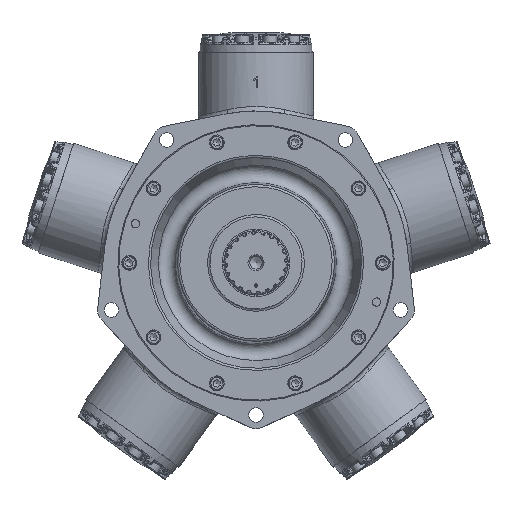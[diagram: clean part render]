
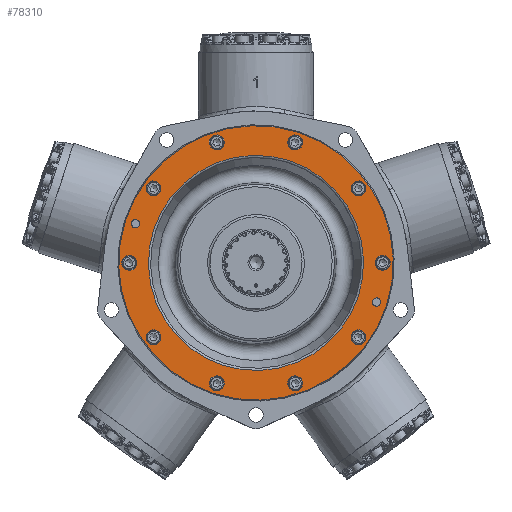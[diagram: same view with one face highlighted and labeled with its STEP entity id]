
A CAD part, top view. The second image highlights one B-rep face of the part: STEP entity #78310.
In plain terms, the highlighted planar face has unit normal (0, 0, 1).
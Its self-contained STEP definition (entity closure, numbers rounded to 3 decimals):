
#1900=FACE_BOUND('',#17883,.T.);
#1901=FACE_BOUND('',#17884,.T.);
#1902=FACE_BOUND('',#17885,.T.);
#1903=FACE_BOUND('',#17886,.T.);
#1904=FACE_BOUND('',#17887,.T.);
#1905=FACE_BOUND('',#17888,.T.);
#1906=FACE_BOUND('',#17889,.T.);
#1907=FACE_BOUND('',#17890,.T.);
#1908=FACE_BOUND('',#17891,.T.);
#1909=FACE_BOUND('',#17892,.T.);
#1910=FACE_BOUND('',#17893,.T.);
#1911=FACE_BOUND('',#17894,.T.);
#1912=FACE_BOUND('',#17895,.T.);
#2571=PLANE('',#83822);
#12924=FACE_OUTER_BOUND('',#17882,.T.);
#17882=EDGE_LOOP('',(#54689));
#17883=EDGE_LOOP('',(#54690));
#17884=EDGE_LOOP('',(#54691));
#17885=EDGE_LOOP('',(#54692));
#17886=EDGE_LOOP('',(#54693));
#17887=EDGE_LOOP('',(#54694));
#17888=EDGE_LOOP('',(#54695));
#17889=EDGE_LOOP('',(#54696));
#17890=EDGE_LOOP('',(#54697));
#17891=EDGE_LOOP('',(#54698));
#17892=EDGE_LOOP('',(#54699));
#17893=EDGE_LOOP('',(#54700));
#17894=EDGE_LOOP('',(#54701));
#17895=EDGE_LOOP('',(#54702));
#22331=CIRCLE('',#83803,148.273);
#22343=CIRCLE('',#83823,189.179);
#22344=CIRCLE('',#83824,5.664);
#22345=CIRCLE('',#83825,5.664);
#22346=CIRCLE('',#83826,10.319);
#22347=CIRCLE('',#83827,10.319);
#22348=CIRCLE('',#83828,10.319);
#22349=CIRCLE('',#83829,10.319);
#22350=CIRCLE('',#83830,10.319);
#22351=CIRCLE('',#83831,10.319);
#22352=CIRCLE('',#83832,10.319);
#22353=CIRCLE('',#83833,10.319);
#22354=CIRCLE('',#83834,10.319);
#22355=CIRCLE('',#83835,10.319);
#30904=VERTEX_POINT('',#156899);
#30914=VERTEX_POINT('',#156933);
#30915=VERTEX_POINT('',#156935);
#30916=VERTEX_POINT('',#156937);
#30917=VERTEX_POINT('',#156939);
#30918=VERTEX_POINT('',#156941);
#30919=VERTEX_POINT('',#156943);
#30920=VERTEX_POINT('',#156945);
#30921=VERTEX_POINT('',#156947);
#30922=VERTEX_POINT('',#156949);
#30923=VERTEX_POINT('',#156951);
#30924=VERTEX_POINT('',#156953);
#30925=VERTEX_POINT('',#156955);
#30926=VERTEX_POINT('',#156957);
#39341=EDGE_CURVE('',#30904,#30904,#22331,.T.);
#39356=EDGE_CURVE('',#30914,#30914,#22343,.T.);
#39357=EDGE_CURVE('',#30915,#30915,#22344,.T.);
#39358=EDGE_CURVE('',#30916,#30916,#22345,.T.);
#39359=EDGE_CURVE('',#30917,#30917,#22346,.T.);
#39360=EDGE_CURVE('',#30918,#30918,#22347,.T.);
#39361=EDGE_CURVE('',#30919,#30919,#22348,.T.);
#39362=EDGE_CURVE('',#30920,#30920,#22349,.T.);
#39363=EDGE_CURVE('',#30921,#30921,#22350,.T.);
#39364=EDGE_CURVE('',#30922,#30922,#22351,.T.);
#39365=EDGE_CURVE('',#30923,#30923,#22352,.T.);
#39366=EDGE_CURVE('',#30924,#30924,#22353,.T.);
#39367=EDGE_CURVE('',#30925,#30925,#22354,.T.);
#39368=EDGE_CURVE('',#30926,#30926,#22355,.T.);
#54689=ORIENTED_EDGE('',*,*,#39356,.F.);
#54690=ORIENTED_EDGE('',*,*,#39357,.T.);
#54691=ORIENTED_EDGE('',*,*,#39358,.T.);
#54692=ORIENTED_EDGE('',*,*,#39359,.T.);
#54693=ORIENTED_EDGE('',*,*,#39360,.T.);
#54694=ORIENTED_EDGE('',*,*,#39361,.T.);
#54695=ORIENTED_EDGE('',*,*,#39362,.T.);
#54696=ORIENTED_EDGE('',*,*,#39363,.T.);
#54697=ORIENTED_EDGE('',*,*,#39364,.T.);
#54698=ORIENTED_EDGE('',*,*,#39365,.T.);
#54699=ORIENTED_EDGE('',*,*,#39366,.T.);
#54700=ORIENTED_EDGE('',*,*,#39367,.T.);
#54701=ORIENTED_EDGE('',*,*,#39368,.T.);
#54702=ORIENTED_EDGE('',*,*,#39341,.F.);
#78310=ADVANCED_FACE('',(#12924,#1900,#1901,#1902,#1903,#1904,#1905,#1906,
#1907,#1908,#1909,#1910,#1911,#1912),#2571,.T.);
#83803=AXIS2_PLACEMENT_3D('',#156901,#94045,#94046);
#83822=AXIS2_PLACEMENT_3D('',#156932,#94086,#94087);
#83823=AXIS2_PLACEMENT_3D('',#156934,#94088,#94089);
#83824=AXIS2_PLACEMENT_3D('',#156936,#94090,#94091);
#83825=AXIS2_PLACEMENT_3D('',#156938,#94092,#94093);
#83826=AXIS2_PLACEMENT_3D('',#156940,#94094,#94095);
#83827=AXIS2_PLACEMENT_3D('',#156942,#94096,#94097);
#83828=AXIS2_PLACEMENT_3D('',#156944,#94098,#94099);
#83829=AXIS2_PLACEMENT_3D('',#156946,#94100,#94101);
#83830=AXIS2_PLACEMENT_3D('',#156948,#94102,#94103);
#83831=AXIS2_PLACEMENT_3D('',#156950,#94104,#94105);
#83832=AXIS2_PLACEMENT_3D('',#156952,#94106,#94107);
#83833=AXIS2_PLACEMENT_3D('',#156954,#94108,#94109);
#83834=AXIS2_PLACEMENT_3D('',#156956,#94110,#94111);
#83835=AXIS2_PLACEMENT_3D('',#156958,#94112,#94113);
#94045=DIRECTION('center_axis',(0.,0.,
1.));
#94046=DIRECTION('ref_axis',(-0.951,0.309,0.));
#94086=DIRECTION('center_axis',(0.,0.,
1.));
#94087=DIRECTION('ref_axis',(-0.309,-0.951,0.));
#94088=DIRECTION('center_axis',(0.,0.,
-1.));
#94089=DIRECTION('ref_axis',(-0.951,0.309,0.));
#94090=DIRECTION('center_axis',(0.,0.,
-1.));
#94091=DIRECTION('ref_axis',(-0.309,-0.951,0.));
#94092=DIRECTION('center_axis',(0.,0.,
-1.));
#94093=DIRECTION('ref_axis',(-0.309,-0.951,0.));
#94094=DIRECTION('center_axis',(0.,0.,
-1.));
#94095=DIRECTION('ref_axis',(0.809,0.588,0.));
#94096=DIRECTION('center_axis',(0.,0.,
-1.));
#94097=DIRECTION('ref_axis',(1.,0.,0.));
#94098=DIRECTION('center_axis',(0.,0.,
-1.));
#94099=DIRECTION('ref_axis',(0.809,-0.588,0.));
#94100=DIRECTION('center_axis',(0.,0.,
-1.));
#94101=DIRECTION('ref_axis',(0.309,-0.951,0.));
#94102=DIRECTION('center_axis',(0.,0.,
-1.));
#94103=DIRECTION('ref_axis',(-0.309,-0.951,0.));
#94104=DIRECTION('center_axis',(0.,0.,
-1.));
#94105=DIRECTION('ref_axis',(-0.809,-0.588,0.));
#94106=DIRECTION('center_axis',(0.,0.,
-1.));
#94107=DIRECTION('ref_axis',(-1.,0.,0.));
#94108=DIRECTION('center_axis',(0.,0.,
-1.));
#94109=DIRECTION('ref_axis',(-0.809,0.588,0.));
#94110=DIRECTION('center_axis',(0.,0.,
-1.));
#94111=DIRECTION('ref_axis',(-0.309,0.951,0.));
#94112=DIRECTION('center_axis',(0.,0.,
-1.));
#94113=DIRECTION('ref_axis',(0.309,0.951,0.));
#156899=CARTESIAN_POINT('',(45.819,141.016,19.664));
#156901=CARTESIAN_POINT('Origin',(0.,0.,
19.664));
#156932=CARTESIAN_POINT('Origin',(161.549,-52.49,19.664));
#156933=CARTESIAN_POINT('',(179.92,-58.459,19.664));
#156934=CARTESIAN_POINT('Origin',(0.,0.,
19.664));
#156935=CARTESIAN_POINT('',(167.829,-48.575,19.664));
#156936=CARTESIAN_POINT('Origin',(166.078,-53.962,19.664));
#156937=CARTESIAN_POINT('',(-164.328,59.349,19.664));
#156938=CARTESIAN_POINT('Origin',(-166.078,53.962,19.664));
#156939=CARTESIAN_POINT('',(-149.623,-108.707,19.664));
#156940=CARTESIAN_POINT('Origin',(-141.275,-102.642,19.664));
#156941=CARTESIAN_POINT('',(-184.944,0.,19.664));
#156942=CARTESIAN_POINT('Origin',(-174.625,0.,19.664));
#156943=CARTESIAN_POINT('',(-149.623,108.707,19.664));
#156944=CARTESIAN_POINT('Origin',(-141.275,102.642,19.664));
#156945=CARTESIAN_POINT('',(-57.151,175.892,19.664));
#156946=CARTESIAN_POINT('Origin',(-53.962,166.078,19.664));
#156947=CARTESIAN_POINT('',(57.151,175.892,19.664));
#156948=CARTESIAN_POINT('Origin',(53.962,166.078,19.664));
#156949=CARTESIAN_POINT('',(149.623,108.707,19.664));
#156950=CARTESIAN_POINT('Origin',(141.275,102.642,19.664));
#156951=CARTESIAN_POINT('',(184.944,0.,19.664));
#156952=CARTESIAN_POINT('Origin',(174.625,0.,19.664));
#156953=CARTESIAN_POINT('',(149.623,-108.707,19.664));
#156954=CARTESIAN_POINT('Origin',(141.275,-102.642,19.664));
#156955=CARTESIAN_POINT('',(57.151,-175.892,19.664));
#156956=CARTESIAN_POINT('Origin',(53.962,-166.078,19.664));
#156957=CARTESIAN_POINT('',(-57.151,-175.892,19.664));
#156958=CARTESIAN_POINT('Origin',(-53.962,-166.078,19.664));
